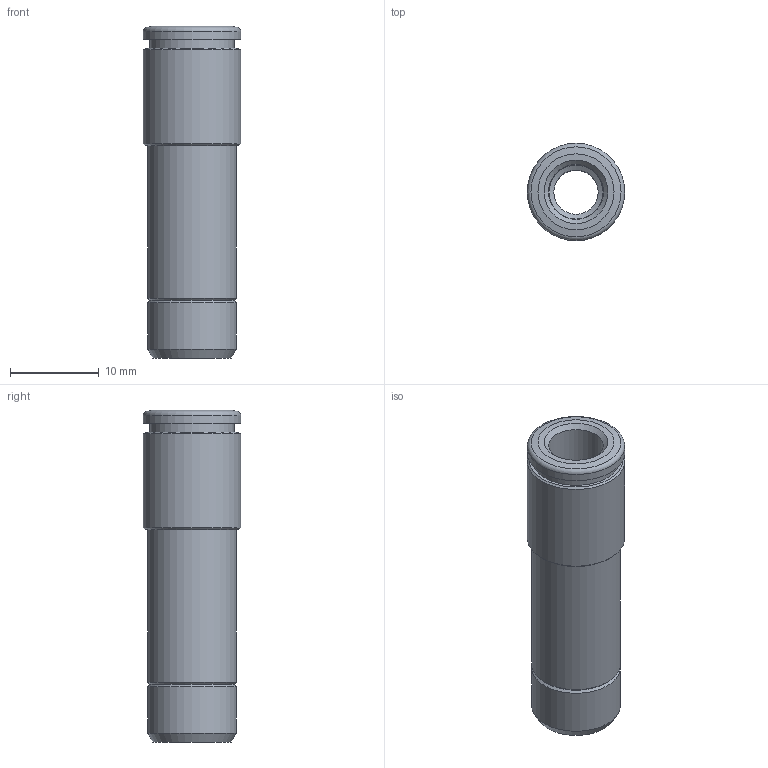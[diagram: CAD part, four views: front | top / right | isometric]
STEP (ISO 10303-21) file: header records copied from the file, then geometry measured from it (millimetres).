
FILE_DESCRIPTION(('Bauteilbeschreibung','HiCAD-Model','HiCAD-STEP-TRANSLATION','Bauteilbeschreibung'),'2;1');
FILE_NAME('B:/ABGLEICH/ZEICHNUNGEN/STEP FÜR INTERNET/STEP/IPSO 08/200807_IPSO_08_10_6.STP','2011-09-23T09:32:01+00:00',('Konstrukteur'),('Konstrukteur Firma GmbH'),' HiCAD neXt 2008, Step 3.1.1401.2J ','HiCAD neXt 2008','confidential');
FILE_SCHEMA(('AUTOMOTIVE_DESIGN { 1 2 10303 214 0 1 1 1 }'));
Length unit declared in the file: millimetre
Products named in the file (3): A00807_IPSO_08_10_6; DR6_1_NEU; R200807_N
Assembly tree (2 placements, depth 2):
  A00807_IPSO_08_10_6
    DR6_1_NEU
    R200807_N
Bounding box: 11 x 11 x 37.5 mm (x, y, z)
Volume: 2042.4 mm3; surface area: 2491.4 mm2
Topology: 2 solids, 2 shells, 32 faces, 59 edges, 34 vertices
Faces by surface type: cone 13, cylinder 11, plane 7, torus 1
Full cylindrical faces by diameter (mm): 5 x1, 6.1 x1, 6.2 x1, 8.3 x1, 9 x1, 9.5 x1, 9.6 x1, 10 x2, 11 x2
Entity records: 888 total; most frequent: DIRECTION 136, CARTESIAN_POINT 100, AXIS2_PLACEMENT_3D 68, EDGE_LOOP 64, ORIENTED_EDGE 64, COLOUR_RGB 34, PRESENTATION_STYLE_ASSIGNMENT 34, ADVANCED_FACE 32
